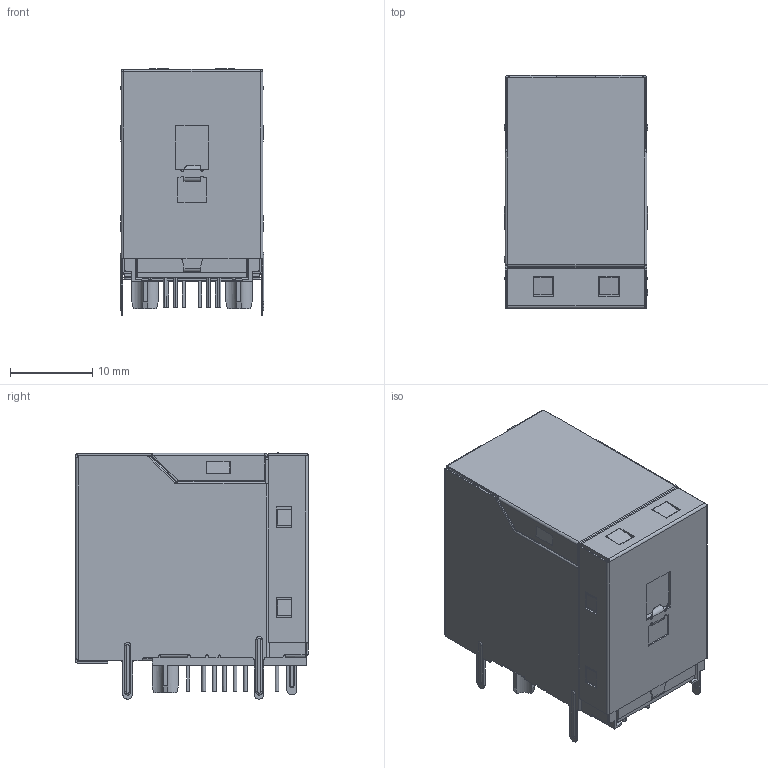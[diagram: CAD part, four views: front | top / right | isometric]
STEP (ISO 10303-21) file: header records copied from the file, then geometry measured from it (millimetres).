
FILE_DESCRIPTION((''),'2;1');
FILE_NAME('DGKYD21Q042AB2A2D057','2024-04-08T10:41:04',('Administrator'),(''),'CREO PARAMETRIC BY PTC INC, 2019010','CREO PARAMETRIC BY PTC INC, 2019010','');
FILE_SCHEMA(('CONFIG_CONTROL_DESIGN'));
Products named in the file (1): DGKYD21Q042AB2A2D057
Bounding box: 17.47 x 28.35 x 30.01 mm (x, y, z)
Volume: 7384.4 mm3; surface area: 14170.7 mm2
Topology: 1 solids, 7 shells, 2850 faces, 8126 edges, 5250 vertices
Faces by surface type: plane 2018, cylinder 745, bspline 41, torus 26, sphere 20
Entity records: 94458 total; most frequent: CARTESIAN_POINT 19090, ORIENTED_EDGE 16212, DIRECTION 15152, EDGE_CURVE 8106, VECTOR 6336, LINE 6336, VERTEX_POINT 5250, AXIS2_PLACEMENT_3D 4408
